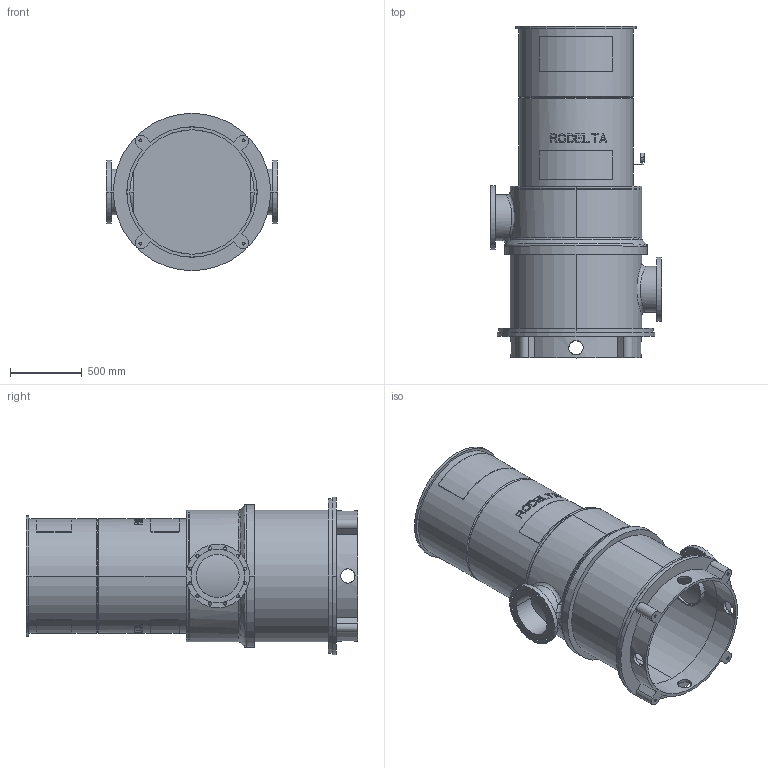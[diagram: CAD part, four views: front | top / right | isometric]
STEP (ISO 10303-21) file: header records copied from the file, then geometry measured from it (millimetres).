
FILE_DESCRIPTION((''),'2;1');
FILE_NAME('LS12_1TR_0GR','2023-08-10T',('Lyritlocal'),(''),'PRO/ENGINEER BY PARAMETRIC TECHNOLOGY CORPORATION, 2016360','PRO/ENGINEER BY PARAMETRIC TECHNOLOGY CORPORATION, 2016360','');
FILE_SCHEMA(('CONFIG_CONTROL_DESIGN'));
Length unit declared in the file: millimetre
Products named in the file (1): LS12_1TR_0GR
Bounding box: 1200 x 2320 x 1100 mm (x, y, z)
Volume: 127220549.2 mm3; surface area: 16689511.1 mm2
Topology: 3 solids, 7 shells, 559 faces, 1467 edges, 971 vertices
Faces by surface type: plane 335, cylinder 198, cone 13, bspline 10, torus 3
Entity records: 18693 total; most frequent: CARTESIAN_POINT 5095, ORIENTED_EDGE 2918, DIRECTION 2627, EDGE_CURVE 1467, AXIS2_PLACEMENT_3D 998, VERTEX_POINT 971, EDGE_LOOP 676, VECTOR 631
